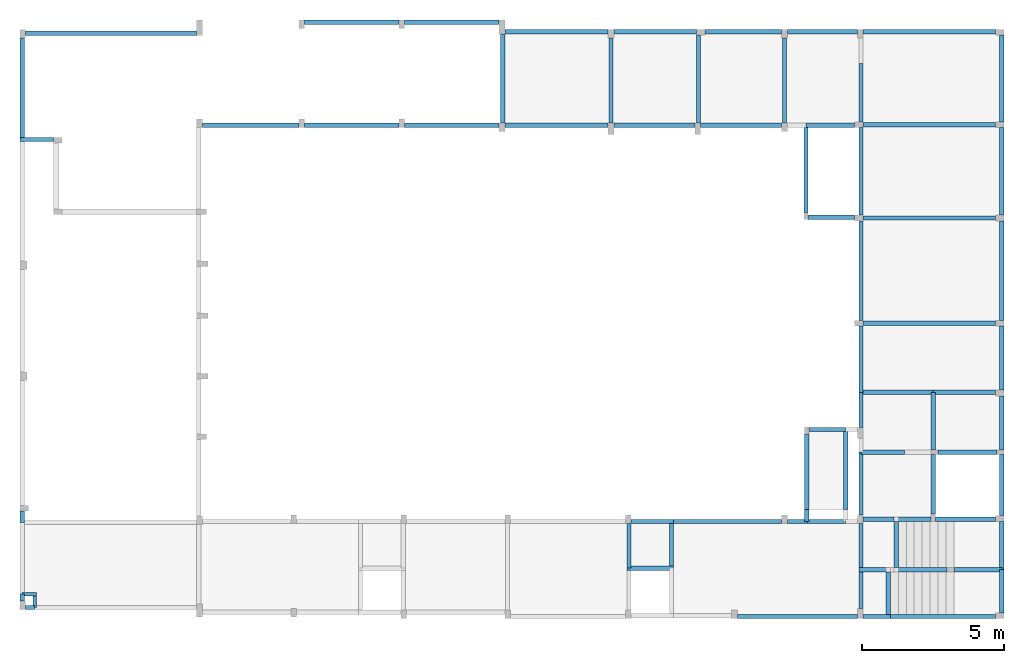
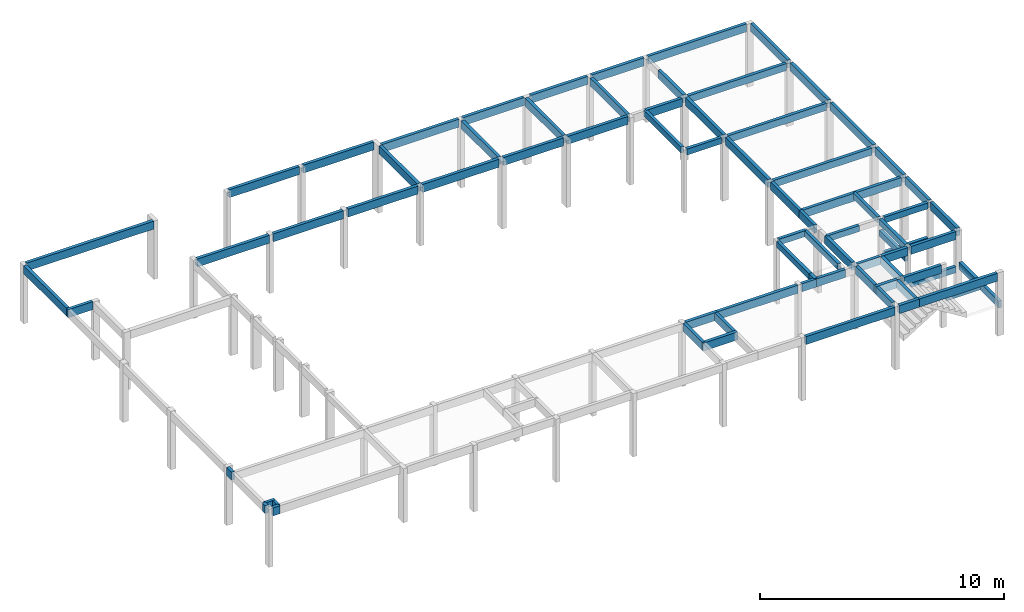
# One storey, part 2 of 11: 78 beams.
"""IFC4 building model written with IfcOpenShell, lengths in centimetres."""

import ifcopenshell
import ifcopenshell.guid

model = None  # the IFC model being written
_history = None  # IfcOwnerHistory: only IFC2X3 demands one
_inside = {}  # id of a spatial element -> (the spatial element, [elements in it])
_under = {}  # id of a project, library or spatial element -> (it, [spatial elements below it])
_declared = {}  # id of a project -> (the project, [libraries it declares])
_typed = {}  # id of a type object -> (the type object, [elements of that type])
_made_of = {}  # id of a material, layer set ... -> (it, [elements and type objects made of it])


def new_model(schema):
    """Start an empty IFC model of exactly this schema.

    Asked for "IFC4X3", IfcOpenShell would pick the latest addendum, in which some entities
    have other attributes; the version numbers below select the first issue.
    IFC2X3 requires an IfcOwnerHistory on every rooted entity: one is made here for all.
    """
    global model, _history
    if schema == "IFC4X3":
        model = ifcopenshell.file(schema_version=(4, 3, 0, 0))
    else:
        model = ifcopenshell.file(schema=schema)
    _inside.clear()
    _under.clear()
    _declared.clear()
    _typed.clear()
    _made_of.clear()
    _history = None
    if model.schema == "IFC2X3":
        org = make("IfcOrganization", Name="unknown")
        user = make(
            "IfcPersonAndOrganization",
            ThePerson=make("IfcPerson", FamilyName="unknown"),
            TheOrganization=org,
        )
        app = make(
            "IfcApplication",
            ApplicationDeveloper=org,
            Version="unknown",
            ApplicationFullName="unknown",
            ApplicationIdentifier="unknown",
        )
        _history = make(
            "IfcOwnerHistory",
            OwningUser=user,
            OwningApplication=app,
            ChangeAction="ADDED",
            CreationDate=0,
        )
    return model


def make(cls, **values):
    """One entity of the class cls with the attributes given. An attribute that is None is left unset."""
    return model.create_entity(
        cls, **{name: value for name, value in values.items() if value is not None}
    )


def rooted(cls, **values):
    """An entity with a GlobalId (a new one), such as an element, a storey or a relation."""
    return make(cls, GlobalId=ifcopenshell.guid.new(), OwnerHistory=_history, **values)


def si_unit(unit_type, name, prefix=None):
    """IfcSIUnit, for example si_unit("LENGTHUNIT", "METRE", prefix="MILLI")."""
    return make("IfcSIUnit", UnitType=unit_type, Prefix=prefix, Name=name)


def derived_unit(unit_type, elements):
    """IfcDerivedUnit: a product of units, each with its exponent."""
    return make(
        "IfcDerivedUnit",
        Elements=[
            make("IfcDerivedUnitElement", Unit=unit, Exponent=power)
            for unit, power in elements
        ],
        UnitType=unit_type,
    )


def assignment(units):
    """IfcUnitAssignment: the units of a project."""
    return None if units is None else make("IfcUnitAssignment", Units=units)


def point(xyz):
    """IfcCartesianPoint."""
    return None if xyz is None else make("IfcCartesianPoint", Coordinates=xyz)


def direction(xyz):
    """IfcDirection."""
    return None if xyz is None else make("IfcDirection", DirectionRatios=xyz)


def frame(location, z_axis=None, x_axis=None):
    """IfcAxis2Placement3D, a coordinate frame: its origin and axes. An axis left out is left unset."""
    return make(
        "IfcAxis2Placement3D",
        Location=point(location),
        Axis=direction(z_axis),
        RefDirection=direction(x_axis),
    )


def frame_2d(location, x_axis=None):
    """IfcAxis2Placement2D, a coordinate frame in the plane: its origin and x axis."""
    return make(
        "IfcAxis2Placement2D", Location=point(location), RefDirection=direction(x_axis)
    )


def origin_with_axes():
    """The frame at (0, 0, 0) with the z axis (0, 0, 1) and the x axis (1, 0, 0) written out."""
    return frame((0.0, 0.0, 0.0), z_axis=(0.0, 0.0, 1.0), x_axis=(1.0, 0.0, 0.0))


def origin_2d_with_axis():
    """The frame at (0, 0) in the plane with the x axis (1, 0) written out."""
    return frame_2d((0.0, 0.0), x_axis=(1.0, 0.0))


def place(relative_to, where):
    """IfcLocalPlacement: puts the frame where relative to a parent placement (None: the world)."""
    return make(
        "IfcLocalPlacement", PlacementRelTo=relative_to, RelativePlacement=where
    )


def context(
    kind, dimensions, precision=None, world=None, true_north=None, identifier=None
):
    """IfcGeometricRepresentationContext, for example the 3D "Model" context."""
    return make(
        "IfcGeometricRepresentationContext",
        ContextIdentifier=identifier,
        ContextType=kind,
        CoordinateSpaceDimension=dimensions,
        Precision=precision,
        WorldCoordinateSystem=world,
        TrueNorth=true_north,
    )


def project(units=None, contexts=None):
    """IfcProject with its units and contexts."""
    return rooted(
        "IfcProject",
        Name="project",
        RepresentationContexts=contexts,
        UnitsInContext=assignment(units),
    )


def spatial(cls, under=None, at=None, **own):
    """A site, building, storey or space (cls), placed at a placement, below another one or the project."""
    s = rooted(cls, ObjectPlacement=at, **own)
    if under is not None:
        _under.setdefault(under.id(), (under, []))[1].append(s)
    return s


def profile(cls, at=None, kind="AREA", **sizes):
    """A parametric profile (cls). Its sizes go by their IFC names, for example OverallWidth=200.0."""
    return make(cls, ProfileType=kind, Position=at, **sizes)


def rectangle(**sizes):
    """IfcRectangleProfileDef."""
    return profile("IfcRectangleProfileDef", **sizes)


def extrude(swept, where, along, depth):
    """IfcExtrudedAreaSolid: the profile swept, set in the frame where, extruded along a direction by depth."""
    return make(
        "IfcExtrudedAreaSolid",
        SweptArea=swept,
        Position=where,
        ExtrudedDirection=direction(along),
        Depth=depth,
    )


def shape(context_of_items, identifier, shape_type, items):
    """IfcShapeRepresentation: the items that make up one representation, for example the "Body"."""
    return make(
        "IfcShapeRepresentation",
        ContextOfItems=context_of_items,
        RepresentationIdentifier=identifier,
        RepresentationType=shape_type,
        Items=items,
    )


def material(Name=None, Category=None):
    """IfcMaterial."""
    return make("IfcMaterial", Name=Name, Category=Category)


def made_of(thing, what):
    """Note that an element or type object is made of a material, layer set ...; save() writes the relation."""
    if what is not None:
        _made_of.setdefault(what.id(), (what, []))[1].append(thing)
    return thing


def element(
    cls,
    number,
    at=None,
    inside=None,
    cuts=None,
    type_object=None,
    material=None,
    context=None,
    identifier="Body",
    shape_type=None,
    held_by="IfcProductDefinitionShape",
    body=None,
    shapes=None,
    **own,
):
    """One element of the class cls, such as IfcWall. Its Tag is "e" and its number.

    at: its placement. inside: the storey or other place that contains it. cuts: it is an
    opening in that element (IfcRelVoidsElement). A single representation is given by context,
    identifier, shape_type and body (its items); several are given by shapes. held_by: the class
    of the entity that holds the representations. save() writes the other relations.
    """
    e = rooted(cls, Tag="e%d" % number, ObjectPlacement=at, **own)
    if body is not None:
        shapes = [shape(context, identifier, shape_type, body)]
    if shapes is not None:
        e.Representation = make(held_by, Representations=shapes)
    if inside is not None:
        _inside.setdefault(inside.id(), (inside, []))[1].append(e)
    if cuts is not None:
        rooted(
            "IfcRelVoidsElement", RelatingBuildingElement=cuts, RelatedOpeningElement=e
        )
    if type_object is not None:
        _typed.setdefault(type_object.id(), (type_object, []))[1].append(e)
    return made_of(e, material)


def aggregate(whole, parts):
    """IfcRelAggregates: a whole, such as a stair, and the parts it consists of."""
    return rooted("IfcRelAggregates", RelatingObject=whole, RelatedObjects=parts)


def save(model, path):
    """Write the relations noted so far, then the file.

    IfcRelAggregates (storeys below a building ...), IfcRelContainedInSpatialStructure (elements
    in a storey), IfcRelDefinesByType, IfcRelAssociatesMaterial and IfcRelDeclares: one each for
    every whole, place, type object, material and project.
    """
    for whole, parts in _under.values():
        aggregate(whole, parts)
    for where, things in _inside.values():
        rooted(
            "IfcRelContainedInSpatialStructure",
            RelatedElements=things,
            RelatingStructure=where,
        )
    for kind, things in _typed.values():
        rooted("IfcRelDefinesByType", RelatedObjects=things, RelatingType=kind)
    for what, things in _made_of.values():
        rooted("IfcRelAssociatesMaterial", RelatedObjects=things, RelatingMaterial=what)
    for by, libraries in _declared.values():
        rooted("IfcRelDeclares", RelatingContext=by, RelatedDefinitions=libraries)
    model.write(path)


model = new_model("IFC4")

# Units and contexts
model_context = context("Model", 3, precision=1e-05, world=origin_with_axes(), identifier="Body")
ifc_project = project(units=[si_unit("LENGTHUNIT", "METRE", prefix="CENTI"), si_unit("VOLUMEUNIT", "CUBIC_METRE"), si_unit("AREAUNIT", "SQUARE_METRE"), si_unit("POWERUNIT", "WATT"), si_unit("LUMINOUSFLUXUNIT", "LUMEN"), si_unit("ELECTRICCURRENTUNIT", "AMPERE"), si_unit("PRESSUREUNIT", "PASCAL", prefix="KILO"), si_unit("MASSUNIT", "GRAM", prefix="KILO"), si_unit("PLANEANGLEUNIT", "RADIAN"), derived_unit("VOLUMETRICFLOWRATEUNIT", [(si_unit("LENGTHUNIT", "METRE"), 3), (si_unit("TIMEUNIT", "SECOND"), -1)])], contexts=[model_context])

# Site, building, storey
site_placement = place(None, origin_with_axes())
site = spatial("IfcSite", under=ifc_project, at=site_placement)
building_placement = place(site_placement, frame((0.0, 0.0, -295.0)))
building = spatial("IfcBuilding", under=site, at=building_placement)
placement_1 = place(building_placement, origin_with_axes())
placement_2 = place(placement_1, frame((0.0, 0.0, 101.0), z_axis=(0.0, 0.0, 1.0), x_axis=(1.0, 0.0, 0.0)))
placement_3 = place(placement_2, frame((0.0, 0.0, 204.0), z_axis=(0.0, 0.0, 1.0), x_axis=(1.0, 0.0, 0.0)))
storey_placement = place(placement_3, frame((0.0, 0.0, 292.0), z_axis=(0.0, 0.0, 1.0), x_axis=(1.0, 0.0, 0.0)))
storey = spatial("IfcBuildingStorey", under=building, at=storey_placement, Name="PAVTO 01", CompositionType="ELEMENT", Elevation=302.0)

# Beams
ifc_material = material(Name="Concreto")
beam_1_placement = place(storey_placement, frame((872.815, -5117.34, 0.0), z_axis=(0.0, 0.0, 1.0), x_axis=(1.0, 0.0, 0.0)))
element("IfcBeam", 1, at=beam_1_placement, inside=storey, material=ifc_material, Name="V101", context=model_context, shape_type="SolidModel", body=[
    extrude(rectangle(XDim=15.0, YDim=40.0, at=origin_2d_with_axis()), frame((-301.085, 0.0, -20.0), z_axis=(1.0, 0.0, 0.0), x_axis=(0.0, -1.0, 0.0)), (0.0, 0.0, 1.0), 602.17),
])
beam_2_placement = place(storey_placement, frame((2072.29, -5078.75, 0.0), z_axis=(0.0, 0.0, 1.0), x_axis=(1.0, 0.0, 0.0)))
element("IfcBeam", 2, at=beam_2_placement, inside=storey, material=ifc_material, Name="V102", context=model_context, shape_type="SolidModel", body=[
    extrude(rectangle(XDim=15.0, YDim=40.0, at=origin_2d_with_axis()), frame((-166.44, 0.0, -20.0), z_axis=(1.0, 0.0, 0.0), x_axis=(0.0, -1.0, 0.0)), (0.0, 0.0, 1.0), 332.88),
])
beam_3_placement = place(storey_placement, frame((1720.125, -5078.75, 0.0), z_axis=(0.0, 0.0, 1.0), x_axis=(1.0, 0.0, 0.0)))
element("IfcBeam", 3, at=beam_3_placement, inside=storey, material=ifc_material, Name="V102", context=model_context, shape_type="SolidModel", body=[
    extrude(rectangle(XDim=15.0, YDim=40.0, at=origin_2d_with_axis()), frame((-165.725, 0.0, -20.0), z_axis=(1.0, 0.0, 0.0), x_axis=(0.0, -1.0, 0.0)), (0.0, 0.0, 1.0), 331.45),
])
beam_4_placement = place(storey_placement, frame((3377.23, -5112.05, 0.0), z_axis=(0.0, 0.0, 1.0), x_axis=(1.0, 0.0, 0.0)))
element("IfcBeam", 4, at=beam_4_placement, inside=storey, material=ifc_material, Name="V103", context=model_context, shape_type="SolidModel", body=[
    extrude(rectangle(XDim=15.0, YDim=40.0, at=origin_2d_with_axis()), frame((-123.5, 0.0, -20.0), z_axis=(1.0, 0.0, 0.0), x_axis=(0.0, -1.0, 0.0)), (0.0, 0.0, 1.0), 247.0),
])
beam_5_placement = place(storey_placement, frame((2440.785, -5112.05, 0.0), z_axis=(0.0, 0.0, 1.0), x_axis=(1.0, 0.0, 0.0)))
element("IfcBeam", 5, at=beam_5_placement, inside=storey, material=ifc_material, Name="V103", context=model_context, shape_type="SolidModel", body=[
    extrude(rectangle(XDim=15.0, YDim=40.0, at=origin_2d_with_axis()), frame((-182.055, 0.0, -20.0), z_axis=(1.0, 0.0, 0.0), x_axis=(0.0, -1.0, 0.0)), (0.0, 0.0, 1.0), 364.11),
])
beam_6_placement = place(storey_placement, frame((3753.745, -5112.05, 0.0), z_axis=(0.0, 0.0, 1.0), x_axis=(1.0, 0.0, 0.0)))
element("IfcBeam", 6, at=beam_6_placement, inside=storey, material=ifc_material, Name="V103", context=model_context, shape_type="SolidModel", body=[
    extrude(rectangle(XDim=15.0, YDim=40.0, at=origin_2d_with_axis()), frame((-233.015, 0.0, -20.0), z_axis=(1.0, 0.0, 0.0), x_axis=(0.0, -1.0, 0.0)), (0.0, 0.0, 1.0), 466.03),
])
beam_7_placement = place(storey_placement, frame((3098.505, -5112.05, 0.0), z_axis=(0.0, 0.0, 1.0), x_axis=(1.0, 0.0, 0.0)))
element("IfcBeam", 7, at=beam_7_placement, inside=storey, material=ifc_material, Name="V103", context=model_context, shape_type="SolidModel", body=[
    extrude(rectangle(XDim=15.0, YDim=40.0, at=origin_2d_with_axis()), frame((-135.225, 0.0, -20.0), z_axis=(1.0, 0.0, 0.0), x_axis=(0.0, -1.0, 0.0)), (0.0, 0.0, 1.0), 270.45),
])
beam_8_placement = place(storey_placement, frame((2788.06, -5112.05, 0.0), z_axis=(0.0, 0.0, 1.0), x_axis=(1.0, 0.0, 0.0)))
element("IfcBeam", 8, at=beam_8_placement, inside=storey, material=ifc_material, Name="V103", context=model_context, shape_type="SolidModel", body=[
    extrude(rectangle(XDim=15.0, YDim=40.0, at=origin_2d_with_axis()), frame((-145.22, 0.0, -20.0), z_axis=(1.0, 0.0, 0.0), x_axis=(0.0, -1.0, 0.0)), (0.0, 0.0, 1.0), 290.44),
])
beam_9_placement = place(storey_placement, frame((3091.005, -5442.19, 0.0), z_axis=(0.0, 0.0, 1.0), x_axis=(1.0, 0.0, 0.0)))
element("IfcBeam", 9, at=beam_9_placement, inside=storey, material=ifc_material, Name="V104", context=model_context, shape_type="SolidModel", body=[
    extrude(rectangle(XDim=15.0, YDim=40.0, at=origin_2d_with_axis()), frame((-142.725, 0.0, -20.0), z_axis=(1.0, 0.0, 0.0), x_axis=(0.0, -1.0, 0.0)), (0.0, 0.0, 1.0), 285.45),
])
beam_10_placement = place(storey_placement, frame((1364.15, -5442.19, 0.0), z_axis=(0.0, 0.0, 1.0), x_axis=(1.0, 0.0, 0.0)))
element("IfcBeam", 10, at=beam_10_placement, inside=storey, material=ifc_material, Name="V104", context=model_context, shape_type="SolidModel", body=[
    extrude(rectangle(XDim=15.0, YDim=40.0, at=origin_2d_with_axis()), frame((-170.25, 0.0, -20.0), z_axis=(1.0, 0.0, 0.0), x_axis=(0.0, -1.0, 0.0)), (0.0, 0.0, 1.0), 340.5),
])
beam_11_placement = place(storey_placement, frame((1720.125, -5442.19, 0.0), z_axis=(0.0, 0.0, 1.0), x_axis=(1.0, 0.0, 0.0)))
element("IfcBeam", 11, at=beam_11_placement, inside=storey, material=ifc_material, Name="V104", context=model_context, shape_type="SolidModel", body=[
    extrude(rectangle(XDim=15.0, YDim=40.0, at=origin_2d_with_axis()), frame((-165.725, 0.0, -20.0), z_axis=(1.0, 0.0, 0.0), x_axis=(0.0, -1.0, 0.0)), (0.0, 0.0, 1.0), 331.45),
])
beam_12_placement = place(storey_placement, frame((2072.29, -5442.19, 0.0), z_axis=(0.0, 0.0, 1.0), x_axis=(1.0, 0.0, 0.0)))
element("IfcBeam", 12, at=beam_12_placement, inside=storey, material=ifc_material, Name="V104", context=model_context, shape_type="SolidModel", body=[
    extrude(rectangle(XDim=15.0, YDim=40.0, at=origin_2d_with_axis()), frame((-166.44, 0.0, -20.0), z_axis=(1.0, 0.0, 0.0), x_axis=(0.0, -1.0, 0.0)), (0.0, 0.0, 1.0), 332.88),
])
beam_13_placement = place(storey_placement, frame((2785.56, -5442.19, 0.0), z_axis=(0.0, 0.0, 1.0), x_axis=(1.0, 0.0, 0.0)))
element("IfcBeam", 13, at=beam_13_placement, inside=storey, material=ifc_material, Name="V104", context=model_context, shape_type="SolidModel", body=[
    extrude(rectangle(XDim=15.0, YDim=40.0, at=origin_2d_with_axis()), frame((-142.72, 0.0, -20.0), z_axis=(1.0, 0.0, 0.0), x_axis=(0.0, -1.0, 0.0)), (0.0, 0.0, 1.0), 285.44),
])
beam_14_placement = place(storey_placement, frame((2440.785, -5442.19, 0.0), z_axis=(0.0, 0.0, 1.0), x_axis=(1.0, 0.0, 0.0)))
element("IfcBeam", 14, at=beam_14_placement, inside=storey, material=ifc_material, Name="V104", context=model_context, shape_type="SolidModel", body=[
    extrude(rectangle(XDim=15.0, YDim=40.0, at=origin_2d_with_axis()), frame((-182.055, 0.0, -20.0), z_axis=(1.0, 0.0, 0.0), x_axis=(0.0, -1.0, 0.0)), (0.0, 0.0, 1.0), 364.11),
])
beam_15_placement = place(storey_placement, frame((3405.055, -5442.19, 0.0), z_axis=(0.0, 0.0, 1.0), x_axis=(1.0, 0.0, 0.0)))
element("IfcBeam", 15, at=beam_15_placement, inside=storey, material=ifc_material, Name="V104", context=model_context, shape_type="SolidModel", body=[
    extrude(rectangle(XDim=15.0, YDim=40.0, at=origin_2d_with_axis()), frame((-85.655, 0.0, -20.0), z_axis=(1.0, 0.0, 0.0), x_axis=(0.0, -1.0, 0.0)), (0.0, 0.0, 1.0), 171.31),
])
beam_16_placement = place(storey_placement, frame((3753.725, -5439.69, 0.0), z_axis=(0.0, 0.0, 1.0), x_axis=(1.0, 0.0, 0.0)))
element("IfcBeam", 16, at=beam_16_placement, inside=storey, material=ifc_material, Name="V105", context=model_context, shape_type="SolidModel", body=[
    extrude(rectangle(XDim=15.0, YDim=35.0, at=origin_2d_with_axis()), frame((-233.015, 0.0, -17.5), z_axis=(1.0, 0.0, 0.0), x_axis=(0.0, -1.0, 0.0)), (0.0, 0.0, 1.0), 466.03),
])
beam_17_placement = place(storey_placement, frame((610.33, -5491.66, 0.0), z_axis=(0.0, 0.0, 1.0), x_axis=(1.0, 0.0, 0.0)))
element("IfcBeam", 17, at=beam_17_placement, inside=storey, material=ifc_material, Name="V106", context=model_context, shape_type="SolidModel", body=[
    extrude(rectangle(XDim=15.0, YDim=40.0, at=origin_2d_with_axis()), frame((-58.6, 0.0, -20.0), z_axis=(1.0, 0.0, 0.0), x_axis=(0.0, -1.0, 0.0)), (0.0, 0.0, 1.0), 117.2),
])
beam_18_placement = place(storey_placement, frame((3408.815, -5766.05, 0.0), z_axis=(0.0, 0.0, 1.0), x_axis=(1.0, 0.0, 0.0)))
element("IfcBeam", 18, at=beam_18_placement, inside=storey, material=ifc_material, Name="V108", context=model_context, shape_type="SolidModel", body=[
    extrude(rectangle(XDim=15.0, YDim=30.0, at=origin_2d_with_axis()), frame((-81.915, 0.0, -15.0), z_axis=(1.0, 0.0, 0.0), x_axis=(0.0, -1.0, 0.0)), (0.0, 0.0, 1.0), 163.83),
])
for number, where, z_axis, x_axis, name in (
    (19, (3753.745, -5768.55, 0.0), (0.0, 0.0, 1.0), (1.0, 0.0, 0.0), "V109"),
    (20, (3753.745, -6138.55, 0.0), (0.0, 0.0, 1.0), (1.0, 0.0, 0.0), "V110"),
):
    element("IfcBeam", number, at=place(storey_placement, frame(where, z_axis=z_axis, x_axis=x_axis)), inside=storey, material=ifc_material, Name=name, context=model_context, shape_type="SolidModel", body=[
        extrude(rectangle(XDim=15.0, YDim=35.0, at=origin_2d_with_axis()), frame((-233.015, 0.0, -17.5), z_axis=(1.0, 0.0, 0.0), x_axis=(0.0, -1.0, 0.0)), (0.0, 0.0, 1.0), 466.03),
    ])
beam_19_placement = place(storey_placement, frame((3640.23, -6382.15, 0.0), z_axis=(0.0, 0.0, 1.0), x_axis=(1.0, 0.0, 0.0)))
element("IfcBeam", 21, at=beam_19_placement, inside=storey, material=ifc_material, Name="V111", context=model_context, shape_type="SolidModel", body=[
    extrude(rectangle(XDim=15.0, YDim=40.0, at=origin_2d_with_axis()), frame((-127.0, 0.0, -20.0), z_axis=(1.0, 0.0, 0.0), x_axis=(0.0, -1.0, 0.0)), (0.0, 0.0, 1.0), 254.0),
])
beam_20_placement = place(storey_placement, frame((3876.995, -6382.15, 0.0), z_axis=(0.0, 0.0, 1.0), x_axis=(1.0, 0.0, 0.0)))
element("IfcBeam", 22, at=beam_20_placement, inside=storey, material=ifc_material, Name="V111", context=model_context, shape_type="SolidModel", body=[
    extrude(rectangle(XDim=15.0, YDim=40.0, at=origin_2d_with_axis()), frame((-109.765, 0.0, -20.0), z_axis=(1.0, 0.0, 0.0), x_axis=(0.0, -1.0, 0.0)), (0.0, 0.0, 1.0), 219.53),
])
beam_21_placement = place(storey_placement, frame((3394.47, -6513.05, 0.0), z_axis=(0.0, 0.0, 1.0), x_axis=(1.0, 0.0, 0.0)))
element("IfcBeam", 23, at=beam_21_placement, inside=storey, material=ifc_material, Name="V112", context=model_context, shape_type="SolidModel", body=[
    extrude(rectangle(XDim=15.0, YDim=30.0, at=origin_2d_with_axis()), frame((-64.74, 0.0, -15.0), z_axis=(1.0, 0.0, 0.0), x_axis=(0.0, -1.0, 0.0)), (0.0, 0.0, 1.0), 129.48),
])
beam_22_placement = place(storey_placement, frame((3589.48, -6592.81, 0.0), z_axis=(0.0, 0.0, 1.0), x_axis=(1.0, 0.0, 0.0)))
element("IfcBeam", 24, at=beam_22_placement, inside=storey, material=ifc_material, Name="V113", context=model_context, shape_type="SolidModel", body=[
    extrude(rectangle(XDim=15.0, YDim=30.0, at=origin_2d_with_axis()), frame((-76.25, 0.0, -15.0), z_axis=(1.0, 0.0, 0.0), x_axis=(0.0, -1.0, 0.0)), (0.0, 0.0, 1.0), 152.5),
])
beam_23_placement = place(storey_placement, frame((3888.23, -6592.81, 0.0), z_axis=(0.0, 0.0, 1.0), x_axis=(1.0, 0.0, 0.0)))
element("IfcBeam", 25, at=beam_23_placement, inside=storey, material=ifc_material, Name="V113", context=model_context, shape_type="SolidModel", body=[
    extrude(rectangle(XDim=15.0, YDim=30.0, at=origin_2d_with_axis()), frame((-103.5, 0.0, -15.0), z_axis=(1.0, 0.0, 0.0), x_axis=(0.0, -1.0, 0.0)), (0.0, 0.0, 1.0), 207.0),
])
beam_24_placement = place(storey_placement, frame((2778.6, -6836.7, 0.0), z_axis=(0.0, 0.0, 1.0), x_axis=(1.0, 0.0, 0.0)))
element("IfcBeam", 26, at=beam_24_placement, inside=storey, material=ifc_material, Name="V115", context=model_context, shape_type="SolidModel", body=[
    extrude(rectangle(XDim=15.0, YDim=40.0, at=origin_2d_with_axis()), frame((-75.0, 0.0, -20.0), z_axis=(1.0, 0.0, 0.0), x_axis=(0.0, -1.0, 0.0)), (0.0, 0.0, 1.0), 150.0),
])
beam_25_placement = place(storey_placement, frame((3390.72, -6836.7, 0.0), z_axis=(0.0, 0.0, 1.0), x_axis=(1.0, 0.0, 0.0)))
element("IfcBeam", 27, at=beam_25_placement, inside=storey, material=ifc_material, Name="V115", context=model_context, shape_type="SolidModel", body=[
    extrude(rectangle(XDim=15.0, YDim=40.0, at=origin_2d_with_axis()), frame((-68.49, 0.0, -20.0), z_axis=(1.0, 0.0, 0.0), x_axis=(0.0, -1.0, 0.0)), (0.0, 0.0, 1.0), 136.98),
])
beam_26_placement = place(storey_placement, frame((3287.98, -6836.7, 0.0), z_axis=(0.0, 0.0, 1.0), x_axis=(1.0, 0.0, 0.0)))
element("IfcBeam", 28, at=beam_26_placement, inside=storey, material=ifc_material, Name="V115", context=model_context, shape_type="SolidModel", body=[
    extrude(rectangle(XDim=15.0, YDim=40.0, at=origin_2d_with_axis()), frame((-34.25, 0.0, -20.0), z_axis=(1.0, 0.0, 0.0), x_axis=(0.0, -1.0, 0.0)), (0.0, 0.0, 1.0), 68.5),
])
beam_27_placement = place(storey_placement, frame((3039.915, -6836.7, 0.0), z_axis=(0.0, 0.0, 1.0), x_axis=(1.0, 0.0, 0.0)))
element("IfcBeam", 29, at=beam_27_placement, inside=storey, material=ifc_material, Name="V115", context=model_context, shape_type="SolidModel", body=[
    extrude(rectangle(XDim=15.0, YDim=40.0, at=origin_2d_with_axis()), frame((-193.815, 0.0, -20.0), z_axis=(1.0, 0.0, 0.0), x_axis=(0.0, -1.0, 0.0)), (0.0, 0.0, 1.0), 387.63),
])
beam_28_placement = place(storey_placement, frame((3698.41, -6828.79, 0.0), z_axis=(0.0, 0.0, 1.0), x_axis=(1.0, 0.0, 0.0)))
element("IfcBeam", 30, at=beam_28_placement, inside=storey, material=ifc_material, Name="V116", context=model_context, shape_type="SolidModel", body=[
    extrude(rectangle(XDim=15.0, YDim=40.0, at=origin_2d_with_axis()), frame((-61.32, 0.0, -20.0), z_axis=(1.0, 0.0, 0.0), x_axis=(0.0, -1.0, 0.0)), (0.0, 0.0, 1.0), 122.64),
])
beam_29_placement = place(storey_placement, frame((3575.16, -6828.79, 0.0), z_axis=(0.0, 0.0, 1.0), x_axis=(1.0, 0.0, 0.0)))
element("IfcBeam", 31, at=beam_29_placement, inside=storey, material=ifc_material, Name="V116", context=model_context, shape_type="SolidModel", body=[
    extrude(rectangle(XDim=15.0, YDim=40.0, at=origin_2d_with_axis()), frame((-54.43, 0.0, -20.0), z_axis=(1.0, 0.0, 0.0), x_axis=(0.0, -1.0, 0.0)), (0.0, 0.0, 1.0), 108.86),
])
beam_30_placement = place(storey_placement, frame((3880.74, -6828.79, 0.0), z_axis=(0.0, 0.0, 1.0), x_axis=(1.0, 0.0, 0.0)))
element("IfcBeam", 32, at=beam_30_placement, inside=storey, material=ifc_material, Name="V116", context=model_context, shape_type="SolidModel", body=[
    extrude(rectangle(XDim=15.0, YDim=40.0, at=origin_2d_with_axis()), frame((-106.01, 0.0, -20.0), z_axis=(1.0, 0.0, 0.0), x_axis=(0.0, -1.0, 0.0)), (0.0, 0.0, 1.0), 212.02),
])
beam_31_placement = place(storey_placement, frame((2771.1, -7001.64, 0.0), z_axis=(0.0, 0.0, 1.0), x_axis=(1.0, 0.0, 0.0)))
element("IfcBeam", 33, at=beam_31_placement, inside=storey, material=ifc_material, Name="V118", context=model_context, shape_type="SolidModel", body=[
    extrude(rectangle(XDim=15.0, YDim=40.0, at=origin_2d_with_axis()), frame((-82.5, 0.0, -20.0), z_axis=(1.0, 0.0, 0.0), x_axis=(0.0, -1.0, 0.0)), (0.0, 0.0, 1.0), 165.0),
])
beam_32_placement = place(storey_placement, frame((3557.41, -7006.81, 0.0), z_axis=(0.0, 0.0, 1.0), x_axis=(1.0, 0.0, 0.0)))
element("IfcBeam", 34, at=beam_32_placement, inside=storey, material=ifc_material, Name="V119", context=model_context, shape_type="SolidModel", body=[
    extrude(rectangle(XDim=15.0, YDim=40.0, at=origin_2d_with_axis()), frame((-51.68, 0.0, -20.0), z_axis=(1.0, 0.0, 0.0), x_axis=(0.0, -1.0, 0.0)), (0.0, 0.0, 1.0), 103.36),
])
beam_33_placement = place(storey_placement, frame((3726.34, -7006.81, 0.0), z_axis=(0.0, 0.0, 1.0), x_axis=(1.0, 0.0, 0.0)))
element("IfcBeam", 35, at=beam_33_placement, inside=storey, material=ifc_material, Name="V119", context=model_context, shape_type="SolidModel", body=[
    extrude(rectangle(XDim=15.0, YDim=40.0, at=origin_2d_with_axis()), frame((-89.25, 0.0, -20.0), z_axis=(1.0, 0.0, 0.0), x_axis=(0.0, -1.0, 0.0)), (0.0, 0.0, 1.0), 178.5),
])
beam_34_placement = place(storey_placement, frame((584.59, -7093.2, 0.0), z_axis=(0.0, 0.0, 1.0), x_axis=(1.0, 0.0, 0.0)))
element("IfcBeam", 36, at=beam_34_placement, inside=storey, material=ifc_material, Name="V120", context=model_context, shape_type="SolidModel", body=[
    extrude(rectangle(XDim=13.0, YDim=30.0, at=origin_2d_with_axis()), frame((-25.36, 0.0, -15.0), z_axis=(1.0, 0.0, 0.0), x_axis=(0.0, -1.0, 0.0)), (0.0, 0.0, 1.0), 50.72),
])
beam_35_placement = place(storey_placement, frame((587.59, -7139.7, 0.0), z_axis=(0.0, 0.0, 1.0), x_axis=(1.0, 0.0, 0.0)))
element("IfcBeam", 37, at=beam_35_placement, inside=storey, material=ifc_material, Name="V121", context=model_context, shape_type="SolidModel", body=[
    extrude(rectangle(XDim=15.0, YDim=40.0, at=origin_2d_with_axis()), frame((-15.86, 0.0, -20.0), z_axis=(1.0, 0.0, 0.0), x_axis=(0.0, -1.0, 0.0)), (0.0, 0.0, 1.0), 31.72),
])
beam_36_placement = place(storey_placement, frame((3797.925, -7171.81, 0.0), z_axis=(0.0, 0.0, 1.0), x_axis=(1.0, 0.0, 0.0)))
element("IfcBeam", 38, at=beam_36_placement, inside=storey, material=ifc_material, Name="V125", context=model_context, shape_type="SolidModel", body=[
    extrude(rectangle(XDim=15.0, YDim=40.0, at=origin_2d_with_axis()), frame((-188.835, 0.0, -20.0), z_axis=(1.0, 0.0, 0.0), x_axis=(0.0, -1.0, 0.0)), (0.0, 0.0, 1.0), 377.67),
])
beam_37_placement = place(storey_placement, frame((3289.135, -7171.81, 0.0), z_axis=(0.0, 0.0, 1.0), x_axis=(1.0, 0.0, 0.0)))
element("IfcBeam", 39, at=beam_37_placement, inside=storey, material=ifc_material, Name="V125", context=model_context, shape_type="SolidModel", body=[
    extrude(rectangle(XDim=15.0, YDim=40.0, at=origin_2d_with_axis()), frame((-211.595, 0.0, -20.0), z_axis=(1.0, 0.0, 0.0), x_axis=(0.0, -1.0, 0.0)), (0.0, 0.0, 1.0), 423.19),
])
beam_38_placement = place(storey_placement, frame((3568.66, -7171.81, 0.0), z_axis=(0.0, 0.0, 1.0), x_axis=(1.0, 0.0, 0.0)))
element("IfcBeam", 40, at=beam_38_placement, inside=storey, material=ifc_material, Name="V125", context=model_context, shape_type="SolidModel", body=[
    extrude(rectangle(XDim=15.0, YDim=40.0, at=origin_2d_with_axis()), frame((-47.93, 0.0, -20.0), z_axis=(1.0, 0.0, 0.0), x_axis=(0.0, -1.0, 0.0)), (0.0, 0.0, 1.0), 95.86),
])
beam_39_placement = place(storey_placement, frame((603.45, -7119.7, 0.0), z_axis=(0.0, 0.0, 1.0), x_axis=(1.0, 0.0, 0.0)))
element("IfcBeam", 41, at=beam_39_placement, inside=storey, material=ifc_material, Name="V126", context=model_context, shape_type="SolidModel", body=[
    extrude(rectangle(XDim=13.0, YDim=30.0, at=origin_2d_with_axis()), frame((0.0, -20.0, -15.0), z_axis=(0.0, 1.0, 0.0), x_axis=(1.0, 0.0, 0.0)), (0.0, 0.0, 1.0), 40.0),
])
beam_40_placement = place(storey_placement, frame((559.23, -7105.2, 0.0), z_axis=(0.0, 0.0, 1.0), x_axis=(1.0, 0.0, 0.0)))
element("IfcBeam", 42, at=beam_40_placement, inside=storey, material=ifc_material, Name="V127", context=model_context, shape_type="SolidModel", body=[
    extrude(rectangle(XDim=15.0, YDim=40.0, at=origin_2d_with_axis()), frame((0.0, -12.0, -20.0), z_axis=(0.0, 1.0, 0.0), x_axis=(1.0, 0.0, 0.0)), (0.0, 0.0, 1.0), 24.0),
])
beam_41_placement = place(storey_placement, frame((559.23, -5309.355, 0.0), z_axis=(0.0, 0.0, 1.0), x_axis=(1.0, 0.0, 0.0)))
element("IfcBeam", 43, at=beam_41_placement, inside=storey, material=ifc_material, Name="V127", context=model_context, shape_type="SolidModel", body=[
    extrude(rectangle(XDim=15.0, YDim=40.0, at=origin_2d_with_axis()), frame((0.0, -174.805, -20.0), z_axis=(0.0, 1.0, 0.0), x_axis=(1.0, 0.0, 0.0)), (0.0, 0.0, 1.0), 349.61),
])
beam_42_placement = place(storey_placement, frame((559.23, -6820.445, 0.0), z_axis=(0.0, 0.0, 1.0), x_axis=(1.0, 0.0, 0.0)))
element("IfcBeam", 44, at=beam_42_placement, inside=storey, material=ifc_material, Name="V127", context=model_context, shape_type="SolidModel", body=[
    extrude(rectangle(XDim=15.0, YDim=40.0, at=origin_2d_with_axis()), frame((0.0, -20.405, -20.0), z_axis=(0.0, 1.0, 0.0), x_axis=(1.0, 0.0, 0.0)), (0.0, 0.0, 1.0), 40.81),
])
beam_43_placement = place(storey_placement, frame((2251.23, -5277.935, 0.0), z_axis=(0.0, 0.0, 1.0), x_axis=(1.0, 0.0, 0.0)))
element("IfcBeam", 45, at=beam_43_placement, inside=storey, material=ifc_material, Name="V136", context=model_context, shape_type="SolidModel", body=[
    extrude(rectangle(XDim=15.0, YDim=40.0, at=origin_2d_with_axis()), frame((0.0, -156.685, -20.0), z_axis=(0.0, 1.0, 0.0), x_axis=(1.0, 0.0, 0.0)), (0.0, 0.0, 1.0), 313.37),
])
beam_44_placement = place(storey_placement, frame((2632.84, -5284.585, 0.0), z_axis=(0.0, 0.0, 1.0), x_axis=(1.0, 0.0, 0.0)))
element("IfcBeam", 46, at=beam_44_placement, inside=storey, material=ifc_material, Name="V137", context=model_context, shape_type="SolidModel", body=[
    extrude(rectangle(XDim=15.0, YDim=40.0, at=origin_2d_with_axis()), frame((0.0, -150.035, -20.0), z_axis=(0.0, 1.0, 0.0), x_axis=(1.0, 0.0, 0.0)), (0.0, 0.0, 1.0), 300.07),
])
beam_45_placement = place(storey_placement, frame((2696.1, -6922.92, 0.0), z_axis=(0.0, 0.0, 1.0), x_axis=(1.0, 0.0, 0.0)))
element("IfcBeam", 47, at=beam_45_placement, inside=storey, material=ifc_material, Name="V138", context=model_context, shape_type="SolidModel", body=[
    extrude(rectangle(XDim=15.0, YDim=40.0, at=origin_2d_with_axis()), frame((0.0, -78.72, -20.0), z_axis=(0.0, 1.0, 0.0), x_axis=(1.0, 0.0, 0.0)), (0.0, 0.0, 1.0), 157.44),
])
beam_46_placement = place(storey_placement, frame((2846.1, -6919.17, 0.0), z_axis=(0.0, 0.0, 1.0), x_axis=(1.0, 0.0, 0.0)))
element("IfcBeam", 48, at=beam_46_placement, inside=storey, material=ifc_material, Name="V139", context=model_context, shape_type="SolidModel", body=[
    extrude(rectangle(XDim=15.0, YDim=40.0, at=origin_2d_with_axis()), frame((0.0, -74.97, -20.0), z_axis=(0.0, 1.0, 0.0), x_axis=(1.0, 0.0, 0.0)), (0.0, 0.0, 1.0), 149.94),
])
beam_47_placement = place(storey_placement, frame((2940.78, -5279.585, 0.0), z_axis=(0.0, 0.0, 1.0), x_axis=(1.0, 0.0, 0.0)))
element("IfcBeam", 49, at=beam_47_placement, inside=storey, material=ifc_material, Name="V140", context=model_context, shape_type="SolidModel", body=[
    extrude(rectangle(XDim=15.0, YDim=40.0, at=origin_2d_with_axis()), frame((0.0, -155.035, -20.0), z_axis=(0.0, 1.0, 0.0), x_axis=(1.0, 0.0, 0.0)), (0.0, 0.0, 1.0), 310.07),
])
beam_48_placement = place(storey_placement, frame((3243.73, -5284.585, 0.0), z_axis=(0.0, 0.0, 1.0), x_axis=(1.0, 0.0, 0.0)))
element("IfcBeam", 50, at=beam_48_placement, inside=storey, material=ifc_material, Name="V141", context=model_context, shape_type="SolidModel", body=[
    extrude(rectangle(XDim=15.0, YDim=40.0, at=origin_2d_with_axis()), frame((0.0, -150.035, -20.0), z_axis=(0.0, 1.0, 0.0), x_axis=(1.0, 0.0, 0.0)), (0.0, 0.0, 1.0), 300.07),
])
beam_49_placement = place(storey_placement, frame((3322.23, -6661.73, 0.0), z_axis=(0.0, 0.0, 1.0), x_axis=(1.0, 0.0, 0.0)))
element("IfcBeam", 51, at=beam_49_placement, inside=storey, material=ifc_material, Name="V142", context=model_context, shape_type="SolidModel", body=[
    extrude(rectangle(XDim=15.0, YDim=30.0, at=origin_2d_with_axis()), frame((0.0, -132.53, -15.0), z_axis=(0.0, 1.0, 0.0), x_axis=(1.0, 0.0, 0.0)), (0.0, 0.0, 1.0), 265.06),
])
beam_50_placement = place(storey_placement, frame((3322.23, -6815.48, 0.0), z_axis=(0.0, 0.0, 1.0), x_axis=(1.0, 0.0, 0.0)))
element("IfcBeam", 52, at=beam_50_placement, inside=storey, material=ifc_material, Name="V142", context=model_context, shape_type="SolidModel", body=[
    extrude(rectangle(XDim=15.0, YDim=30.0, at=origin_2d_with_axis()), frame((0.0, -21.22, -15.0), z_axis=(0.0, 1.0, 0.0), x_axis=(1.0, 0.0, 0.0)), (0.0, 0.0, 1.0), 42.44),
])
beam_51_placement = place(storey_placement, frame((3319.4, -5595.37, 0.0), z_axis=(0.0, 0.0, 1.0), x_axis=(1.0, 0.0, 0.0)))
element("IfcBeam", 53, at=beam_51_placement, inside=storey, material=ifc_material, Name="V143", context=model_context, shape_type="SolidModel", body=[
    extrude(rectangle(XDim=15.0, YDim=30.0, at=origin_2d_with_axis()), frame((0.0, -153.18, -15.0), z_axis=(0.0, 1.0, 0.0), x_axis=(1.0, 0.0, 0.0)), (0.0, 0.0, 1.0), 306.36),
])
beam_52_placement = place(storey_placement, frame((3459.21, -6653.655, 0.0), z_axis=(0.0, 0.0, 1.0), x_axis=(1.0, 0.0, 0.0)))
element("IfcBeam", 54, at=beam_52_placement, inside=storey, material=ifc_material, Name="V144", context=model_context, shape_type="SolidModel", body=[
    extrude(rectangle(XDim=15.0, YDim=30.0, at=origin_2d_with_axis()), frame((0.0, -140.605, -15.0), z_axis=(0.0, 1.0, 0.0), x_axis=(1.0, 0.0, 0.0)), (0.0, 0.0, 1.0), 281.21),
])
beam_53_placement = place(storey_placement, frame((3513.23, -5953.55, 0.0), z_axis=(0.0, 0.0, 1.0), x_axis=(1.0, 0.0, 0.0)))
element("IfcBeam", 55, at=beam_53_placement, inside=storey, material=ifc_material, Name="V145", context=model_context, shape_type="SolidModel", body=[
    extrude(rectangle(XDim=15.0, YDim=40.0, at=origin_2d_with_axis()), frame((0.0, -175.0, -20.0), z_axis=(0.0, 1.0, 0.0), x_axis=(1.0, 0.0, 0.0)), (0.0, 0.0, 1.0), 350.0),
])
beam_54_placement = place(storey_placement, frame((3513.23, -6443.85, 0.0), z_axis=(0.0, 0.0, 1.0), x_axis=(1.0, 0.0, 0.0)))
element("IfcBeam", 56, at=beam_54_placement, inside=storey, material=ifc_material, Name="V145", context=model_context, shape_type="SolidModel", body=[
    extrude(rectangle(XDim=15.0, YDim=40.0, at=origin_2d_with_axis()), frame((0.0, -61.7, -20.0), z_axis=(0.0, 1.0, 0.0), x_axis=(1.0, 0.0, 0.0)), (0.0, 0.0, 1.0), 123.4),
])
beam_55_placement = place(storey_placement, frame((3513.23, -5326.62, 0.0), z_axis=(0.0, 0.0, 1.0), x_axis=(1.0, 0.0, 0.0)))
element("IfcBeam", 57, at=beam_55_placement, inside=storey, material=ifc_material, Name="V145", context=model_context, shape_type="SolidModel", body=[
    extrude(rectangle(XDim=15.0, YDim=40.0, at=origin_2d_with_axis()), frame((0.0, -103.07, -20.0), z_axis=(0.0, 1.0, 0.0), x_axis=(1.0, 0.0, 0.0)), (0.0, 0.0, 1.0), 206.14),
])
beam_56_placement = place(storey_placement, frame((3513.23, -7079.31, 0.0), z_axis=(0.0, 0.0, 1.0), x_axis=(1.0, 0.0, 0.0)))
element("IfcBeam", 58, at=beam_56_placement, inside=storey, material=ifc_material, Name="V145", context=model_context, shape_type="SolidModel", body=[
    extrude(rectangle(XDim=15.0, YDim=40.0, at=origin_2d_with_axis()), frame((0.0, -65.0, -20.0), z_axis=(0.0, 1.0, 0.0), x_axis=(1.0, 0.0, 0.0)), (0.0, 0.0, 1.0), 130.0),
])
beam_57_placement = place(storey_placement, frame((3513.23, -6265.35, 0.0), z_axis=(0.0, 0.0, 1.0), x_axis=(1.0, 0.0, 0.0)))
element("IfcBeam", 59, at=beam_57_placement, inside=storey, material=ifc_material, Name="V145", context=model_context, shape_type="SolidModel", body=[
    extrude(rectangle(XDim=15.0, YDim=40.0, at=origin_2d_with_axis()), frame((0.0, -116.8, -20.0), z_axis=(0.0, 1.0, 0.0), x_axis=(1.0, 0.0, 0.0)), (0.0, 0.0, 1.0), 233.6),
])
beam_58_placement = place(storey_placement, frame((3513.23, -6703.505, 0.0), z_axis=(0.0, 0.0, 1.0), x_axis=(1.0, 0.0, 0.0)))
element("IfcBeam", 60, at=beam_58_placement, inside=storey, material=ifc_material, Name="V145", context=model_context, shape_type="SolidModel", body=[
    extrude(rectangle(XDim=15.0, YDim=40.0, at=origin_2d_with_axis()), frame((0.0, -110.695, -20.0), z_axis=(0.0, 1.0, 0.0), x_axis=(1.0, 0.0, 0.0)), (0.0, 0.0, 1.0), 221.39),
])
beam_59_placement = place(storey_placement, frame((3513.23, -6925.505, 0.0), z_axis=(0.0, 0.0, 1.0), x_axis=(1.0, 0.0, 0.0)))
element("IfcBeam", 61, at=beam_59_placement, inside=storey, material=ifc_material, Name="V145", context=model_context, shape_type="SolidModel", body=[
    extrude(rectangle(XDim=15.0, YDim=40.0, at=origin_2d_with_axis()), frame((0.0, -81.305, -20.0), z_axis=(0.0, 1.0, 0.0), x_axis=(1.0, 0.0, 0.0)), (0.0, 0.0, 1.0), 162.61),
])
beam_60_placement = place(storey_placement, frame((3513.23, -5604.12, 0.0), z_axis=(0.0, 0.0, 1.0), x_axis=(1.0, 0.0, 0.0)))
element("IfcBeam", 62, at=beam_60_placement, inside=storey, material=ifc_material, Name="V145", context=model_context, shape_type="SolidModel", body=[
    extrude(rectangle(XDim=15.0, YDim=40.0, at=origin_2d_with_axis()), frame((0.0, -154.43, -20.0), z_axis=(0.0, 1.0, 0.0), x_axis=(1.0, 0.0, 0.0)), (0.0, 0.0, 1.0), 308.86),
])
beam_61_placement = place(storey_placement, frame((3609.09, -7089.31, 0.0), z_axis=(0.0, 0.0, 1.0), x_axis=(1.0, 0.0, 0.0)))
element("IfcBeam", 63, at=beam_61_placement, inside=storey, material=ifc_material, Name="V146", context=model_context, shape_type="SolidModel", body=[
    extrude(rectangle(XDim=15.0, YDim=40.0, at=origin_2d_with_axis()), frame((0.0, -75.0, -20.0), z_axis=(0.0, 1.0, 0.0), x_axis=(1.0, 0.0, 0.0)), (0.0, 0.0, 1.0), 150.0),
])
beam_62_placement = place(storey_placement, frame((3637.09, -6917.8, 0.0), z_axis=(0.0, 0.0, 1.0), x_axis=(1.0, 0.0, 0.0)))
element("IfcBeam", 64, at=beam_62_placement, inside=storey, material=ifc_material, Name="V147", context=model_context, shape_type="SolidModel", body=[
    extrude(rectangle(XDim=15.0, YDim=40.0, at=origin_2d_with_axis()), frame((0.0, -81.51, -20.0), z_axis=(0.0, 1.0, 0.0), x_axis=(1.0, 0.0, 0.0)), (0.0, 0.0, 1.0), 163.02),
])
beam_63_placement = place(storey_placement, frame((3767.23, -6483.73, 0.0), z_axis=(0.0, 0.0, 1.0), x_axis=(1.0, 0.0, 0.0)))
element("IfcBeam", 65, at=beam_63_placement, inside=storey, material=ifc_material, Name="V148", context=model_context, shape_type="SolidModel", body=[
    extrude(rectangle(XDim=15.0, YDim=30.0, at=origin_2d_with_axis()), frame((0.0, -101.58, -15.0), z_axis=(0.0, 1.0, 0.0), x_axis=(1.0, 0.0, 0.0)), (0.0, 0.0, 1.0), 203.16),
])
beam_64_placement = place(storey_placement, frame((3767.23, -6705.8, 0.0), z_axis=(0.0, 0.0, 1.0), x_axis=(1.0, 0.0, 0.0)))
element("IfcBeam", 66, at=beam_64_placement, inside=storey, material=ifc_material, Name="V148", context=model_context, shape_type="SolidModel", body=[
    extrude(rectangle(XDim=15.0, YDim=30.0, at=origin_2d_with_axis()), frame((0.0, -105.49, -15.0), z_axis=(0.0, 1.0, 0.0), x_axis=(1.0, 0.0, 0.0)), (0.0, 0.0, 1.0), 210.98),
])
beam_65_placement = place(storey_placement, frame((4009.25, -5953.55, 0.0), z_axis=(0.0, 0.0, 1.0), x_axis=(1.0, 0.0, 0.0)))
element("IfcBeam", 67, at=beam_65_placement, inside=storey, material=ifc_material, Name="V149", context=model_context, shape_type="SolidModel", body=[
    extrude(rectangle(XDim=15.0, YDim=40.0, at=origin_2d_with_axis()), frame((0.0, -175.0, -20.0), z_axis=(0.0, 1.0, 0.0), x_axis=(1.0, 0.0, 0.0)), (0.0, 0.0, 1.0), 350.0),
])
beam_66_placement = place(storey_placement, frame((4009.25, -5604.12, 0.0), z_axis=(0.0, 0.0, 1.0), x_axis=(1.0, 0.0, 0.0)))
element("IfcBeam", 68, at=beam_66_placement, inside=storey, material=ifc_material, Name="V149", context=model_context, shape_type="SolidModel", body=[
    extrude(rectangle(XDim=15.0, YDim=40.0, at=origin_2d_with_axis()), frame((0.0, -154.43, -20.0), z_axis=(0.0, 1.0, 0.0), x_axis=(1.0, 0.0, 0.0)), (0.0, 0.0, 1.0), 308.86),
])
beam_67_placement = place(storey_placement, frame((4009.25, -6708.3, 0.0), z_axis=(0.0, 0.0, 1.0), x_axis=(1.0, 0.0, 0.0)))
element("IfcBeam", 69, at=beam_67_placement, inside=storey, material=ifc_material, Name="V149", context=model_context, shape_type="SolidModel", body=[
    extrude(rectangle(XDim=15.0, YDim=40.0, at=origin_2d_with_axis()), frame((0.0, -107.99, -20.0), z_axis=(0.0, 1.0, 0.0), x_axis=(1.0, 0.0, 0.0)), (0.0, 0.0, 1.0), 215.98),
])
beam_68_placement = place(storey_placement, frame((4009.25, -5277.12, 0.0), z_axis=(0.0, 0.0, 1.0), x_axis=(1.0, 0.0, 0.0)))
element("IfcBeam", 70, at=beam_68_placement, inside=storey, material=ifc_material, Name="V149", context=model_context, shape_type="SolidModel", body=[
    extrude(rectangle(XDim=15.0, YDim=40.0, at=origin_2d_with_axis()), frame((0.0, -152.57, -20.0), z_axis=(0.0, 1.0, 0.0), x_axis=(1.0, 0.0, 0.0)), (0.0, 0.0, 1.0), 305.14),
])
beam_69_placement = place(storey_placement, frame((4009.25, -6261.6, 0.0), z_axis=(0.0, 0.0, 1.0), x_axis=(1.0, 0.0, 0.0)))
element("IfcBeam", 71, at=beam_69_placement, inside=storey, material=ifc_material, Name="V149", context=model_context, shape_type="SolidModel", body=[
    extrude(rectangle(XDim=15.0, YDim=40.0, at=origin_2d_with_axis()), frame((0.0, -113.05, -20.0), z_axis=(0.0, 1.0, 0.0), x_axis=(1.0, 0.0, 0.0)), (0.0, 0.0, 1.0), 226.1),
])
beam_70_placement = place(storey_placement, frame((4009.25, -6489.98, 0.0), z_axis=(0.0, 0.0, 1.0), x_axis=(1.0, 0.0, 0.0)))
element("IfcBeam", 72, at=beam_70_placement, inside=storey, material=ifc_material, Name="V149", context=model_context, shape_type="SolidModel", body=[
    extrude(rectangle(XDim=15.0, YDim=40.0, at=origin_2d_with_axis()), frame((0.0, -95.33, -20.0), z_axis=(0.0, 1.0, 0.0), x_axis=(1.0, 0.0, 0.0)), (0.0, 0.0, 1.0), 190.66),
])
beam_71_placement = place(storey_placement, frame((3888.23, -6592.81, -175.6), z_axis=(0.0, 0.0, 1.0), x_axis=(1.0, 0.0, 0.0)))
element("IfcBeam", 73, at=beam_71_placement, inside=storey, material=ifc_material, Name="V150", context=model_context, shape_type="SolidModel", body=[
    extrude(rectangle(XDim=15.0, YDim=30.0, at=origin_2d_with_axis()), frame((-103.5, 0.0, -15.0), z_axis=(1.0, 0.0, 0.0), x_axis=(0.0, -1.0, 0.0)), (0.0, 0.0, 1.0), 207.0),
])
beam_72_placement = place(storey_placement, frame((3880.74, -6828.79, -175.6), z_axis=(0.0, 0.0, 1.0), x_axis=(1.0, 0.0, 0.0)))
element("IfcBeam", 74, at=beam_72_placement, inside=storey, material=ifc_material, Name="V151", context=model_context, shape_type="SolidModel", body=[
    extrude(rectangle(XDim=15.0, YDim=30.0, at=origin_2d_with_axis()), frame((-106.01, 0.0, -15.0), z_axis=(1.0, 0.0, 0.0), x_axis=(0.0, -1.0, 0.0)), (0.0, 0.0, 1.0), 212.02),
])
beam_73_placement = place(storey_placement, frame((3924.925, -7006.81, -157.95), z_axis=(0.0, 0.0, 1.0), x_axis=(1.0, 0.0, 0.0)))
element("IfcBeam", 75, at=beam_73_placement, inside=storey, material=ifc_material, Name="V152", context=model_context, shape_type="SolidModel", body=[
    extrude(rectangle(XDim=15.0, YDim=30.0, at=origin_2d_with_axis()), frame((-84.335, 0.0, -15.0), z_axis=(1.0, 0.0, 0.0), x_axis=(0.0, -1.0, 0.0)), (0.0, 0.0, 1.0), 168.67),
])
beam_74_placement = place(storey_placement, frame((3767.23, -6705.8, -56.0), z_axis=(0.0, 0.0, 1.0), x_axis=(1.0, 0.0, 0.0)))
element("IfcBeam", 76, at=beam_74_placement, inside=storey, material=ifc_material, Name="V153", context=model_context, shape_type="SolidModel", body=[
    extrude(rectangle(XDim=15.0, YDim=30.0, at=origin_2d_with_axis()), frame((0.0, -105.49, -15.0), z_axis=(0.0, 1.0, 0.0), x_axis=(1.0, 0.0, 0.0)), (0.0, 0.0, 1.0), 210.98),
])
beam_75_placement = place(storey_placement, frame((4009.26, -7083.06, -157.95), z_axis=(0.0, 0.0, 1.0), x_axis=(1.0, 0.0, 0.0)))
element("IfcBeam", 77, at=beam_75_placement, inside=storey, material=ifc_material, Name="V154", context=model_context, shape_type="SolidModel", body=[
    extrude(rectangle(XDim=15.0, YDim=35.0, at=origin_2d_with_axis()), frame((0.0, -76.25, -17.5), z_axis=(0.0, 1.0, 0.0), x_axis=(1.0, 0.0, 0.0)), (0.0, 0.0, 1.0), 152.5),
])
beam_76_placement = place(storey_placement, frame((4009.2550000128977, -6921.550219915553, -157.95), z_axis=(0.0, 0.0, 1.0), x_axis=(1.0, 0.0, 0.0)))
element("IfcBeam", 78, at=beam_76_placement, inside=storey, material=ifc_material, Name="V154", context=model_context, shape_type="SolidModel", body=[
    extrude(rectangle(XDim=15.0, YDim=35.0, at=origin_2d_with_axis()), frame((0.005000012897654, -85.26021991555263, -17.5), z_axis=(-5.8644147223e-05, 1.0, 0.0), x_axis=(1.0, 5.8644147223e-05, 0.0)), (0.0, 0.0, 1.0), 170.52044012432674),
])

save(model, "model.ifc")
